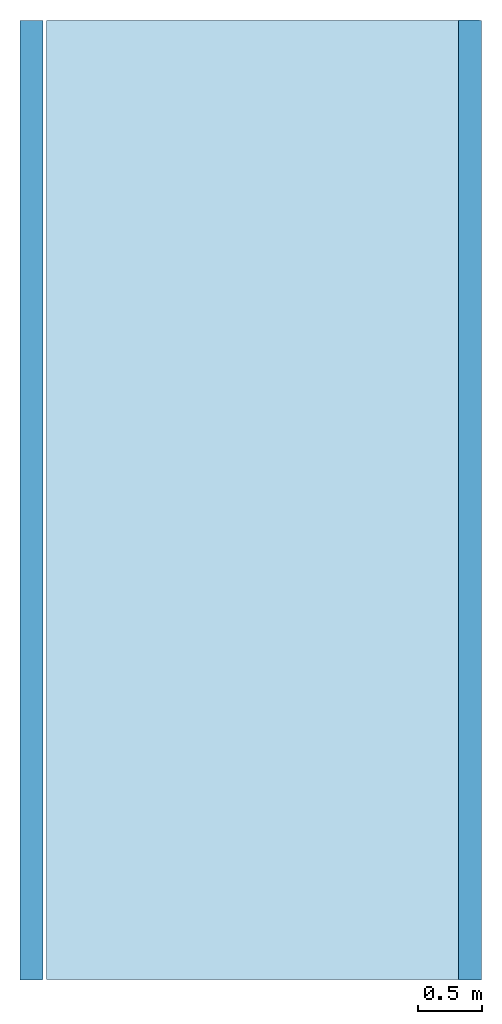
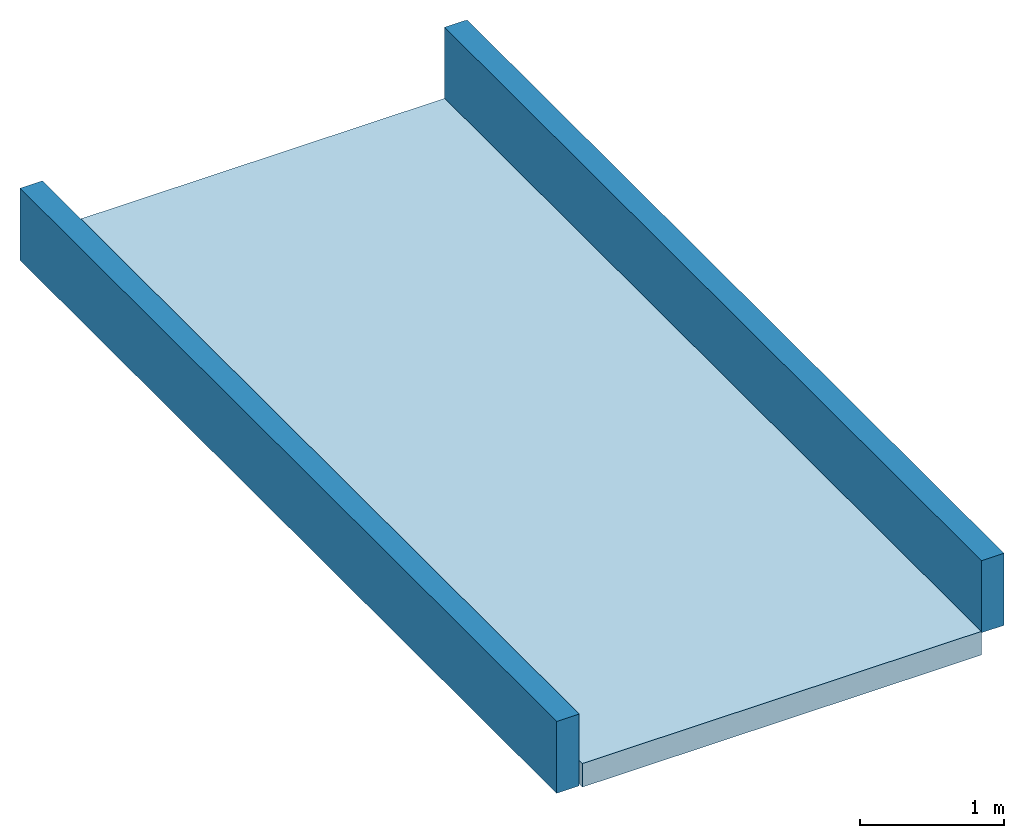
# One storey: 2 beams, 1 slab.
"""IFC2X3 building model written with IfcOpenShell, lengths in metres."""

import ifcopenshell
import ifcopenshell.guid

model = None  # the IFC model being written
_history = None  # IfcOwnerHistory: only IFC2X3 demands one
_inside = {}  # id of a spatial element -> (the spatial element, [elements in it])
_under = {}  # id of a project, library or spatial element -> (it, [spatial elements below it])
_declared = {}  # id of a project -> (the project, [libraries it declares])
_typed = {}  # id of a type object -> (the type object, [elements of that type])
_made_of = {}  # id of a material, layer set ... -> (it, [elements and type objects made of it])


def new_model(schema):
    """Start an empty IFC model of exactly this schema.

    Asked for "IFC4X3", IfcOpenShell would pick the latest addendum, in which some entities
    have other attributes; the version numbers below select the first issue.
    IFC2X3 requires an IfcOwnerHistory on every rooted entity: one is made here for all.
    """
    global model, _history
    if schema == "IFC4X3":
        model = ifcopenshell.file(schema_version=(4, 3, 0, 0))
    else:
        model = ifcopenshell.file(schema=schema)
    _inside.clear()
    _under.clear()
    _declared.clear()
    _typed.clear()
    _made_of.clear()
    _history = None
    if model.schema == "IFC2X3":
        org = make("IfcOrganization", Name="unknown")
        user = make(
            "IfcPersonAndOrganization",
            ThePerson=make("IfcPerson", FamilyName="unknown"),
            TheOrganization=org,
        )
        app = make(
            "IfcApplication",
            ApplicationDeveloper=org,
            Version="unknown",
            ApplicationFullName="unknown",
            ApplicationIdentifier="unknown",
        )
        _history = make(
            "IfcOwnerHistory",
            OwningUser=user,
            OwningApplication=app,
            ChangeAction="ADDED",
            CreationDate=0,
        )
    return model


def make(cls, **values):
    """One entity of the class cls with the attributes given. An attribute that is None is left unset."""
    return model.create_entity(
        cls, **{name: value for name, value in values.items() if value is not None}
    )


def entity(cls, *values):
    """Any entity or typed value of the class cls, its attributes in the order of the schema. None: left unset."""
    e = model.create_entity(cls)
    for i, value in enumerate(values):
        if value is not None:
            e[i] = value
    return e


def rooted(cls, **values):
    """An entity with a GlobalId (a new one), such as an element, a storey or a relation."""
    return make(cls, GlobalId=ifcopenshell.guid.new(), OwnerHistory=_history, **values)


def si_unit(unit_type, name, prefix=None):
    """IfcSIUnit, for example si_unit("LENGTHUNIT", "METRE", prefix="MILLI")."""
    return make("IfcSIUnit", UnitType=unit_type, Prefix=prefix, Name=name)


def converted_unit(unit_type, name, factor, base, dimensions=None, offset=None):
    """IfcConversionBasedUnit, such as the inch: factor (a typed value) times the base unit."""
    return make(
        "IfcConversionBasedUnit"
        if offset is None
        else "IfcConversionBasedUnitWithOffset",
        ConversionOffset=offset,
        Dimensions=None
        if dimensions is None
        else entity("IfcDimensionalExponents", *dimensions),
        UnitType=unit_type,
        Name=name,
        ConversionFactor=make(
            "IfcMeasureWithUnit", ValueComponent=factor, UnitComponent=base
        ),
    )


def derived_unit(unit_type, elements):
    """IfcDerivedUnit: a product of units, each with its exponent."""
    return make(
        "IfcDerivedUnit",
        Elements=[
            make("IfcDerivedUnitElement", Unit=unit, Exponent=power)
            for unit, power in elements
        ],
        UnitType=unit_type,
    )


def assignment(units):
    """IfcUnitAssignment: the units of a project."""
    return None if units is None else make("IfcUnitAssignment", Units=units)


def point(xyz):
    """IfcCartesianPoint."""
    return None if xyz is None else make("IfcCartesianPoint", Coordinates=xyz)


def direction(xyz):
    """IfcDirection."""
    return None if xyz is None else make("IfcDirection", DirectionRatios=xyz)


def frame(location, z_axis=None, x_axis=None):
    """IfcAxis2Placement3D, a coordinate frame: its origin and axes. An axis left out is left unset."""
    return make(
        "IfcAxis2Placement3D",
        Location=point(location),
        Axis=direction(z_axis),
        RefDirection=direction(x_axis),
    )


def frame_2d(location, x_axis=None):
    """IfcAxis2Placement2D, a coordinate frame in the plane: its origin and x axis."""
    return make(
        "IfcAxis2Placement2D", Location=point(location), RefDirection=direction(x_axis)
    )


def origin():
    """The frame at (0, 0, 0) with its axes left unset."""
    return frame((0.0, 0.0, 0.0))


def place(relative_to, where):
    """IfcLocalPlacement: puts the frame where relative to a parent placement (None: the world)."""
    return make(
        "IfcLocalPlacement", PlacementRelTo=relative_to, RelativePlacement=where
    )


def context(
    kind, dimensions, precision=None, world=None, true_north=None, identifier=None
):
    """IfcGeometricRepresentationContext, for example the 3D "Model" context."""
    return make(
        "IfcGeometricRepresentationContext",
        ContextIdentifier=identifier,
        ContextType=kind,
        CoordinateSpaceDimension=dimensions,
        Precision=precision,
        WorldCoordinateSystem=world,
        TrueNorth=true_north,
    )


def subcontext(parent, identifier, kind, view, scale=None):
    """IfcGeometricRepresentationSubContext, for example "Body" below "Model"."""
    return make(
        "IfcGeometricRepresentationSubContext",
        ContextIdentifier=identifier,
        ContextType=kind,
        ParentContext=parent,
        TargetScale=scale,
        TargetView=view,
    )


def project(units=None, contexts=None):
    """IfcProject with its units and contexts."""
    return rooted(
        "IfcProject",
        Name="project",
        RepresentationContexts=contexts,
        UnitsInContext=assignment(units),
    )


def spatial(cls, under=None, at=None, **own):
    """A site, building, storey or space (cls), placed at a placement, below another one or the project."""
    s = rooted(cls, ObjectPlacement=at, **own)
    if under is not None:
        _under.setdefault(under.id(), (under, []))[1].append(s)
    return s


def profile(cls, at=None, kind="AREA", **sizes):
    """A parametric profile (cls). Its sizes go by their IFC names, for example OverallWidth=200.0."""
    return make(cls, ProfileType=kind, Position=at, **sizes)


def rectangle(**sizes):
    """IfcRectangleProfileDef."""
    return profile("IfcRectangleProfileDef", **sizes)


def extrude(swept, where, along, depth):
    """IfcExtrudedAreaSolid: the profile swept, set in the frame where, extruded along a direction by depth."""
    return make(
        "IfcExtrudedAreaSolid",
        SweptArea=swept,
        Position=where,
        ExtrudedDirection=direction(along),
        Depth=depth,
    )


def faces_of(points, faces, orient=None, outer=None):
    """IfcFace entities. A face is a list of loops; a loop is a list of indices into points, from 0.

    orient and outer hold one flag for each loop. By default every Orientation is true, the
    first loop of a face is its IfcFaceOuterBound and the others are IfcFaceBound.
    """
    made = []
    for i, loops in enumerate(faces):
        bounds = []
        for j, loop in enumerate(loops):
            is_outer = j == 0 if outer is None else outer[i][j]
            bounds.append(
                make(
                    "IfcFaceOuterBound" if is_outer else "IfcFaceBound",
                    Bound=make("IfcPolyLoop", Polygon=[points[k] for k in loop]),
                    Orientation=True if orient is None else orient[i][j],
                )
            )
        made.append(make("IfcFace", Bounds=bounds))
    return made


def faceted_brep(points, faces, orient=None, outer=None, voids=None):
    """IfcFacetedBrep: a solid bounded by flat faces; with voids (closed shells), ...WithVoids."""
    shared = [point(p) for p in points]
    hull = make("IfcClosedShell", CfsFaces=faces_of(shared, faces, orient, outer))
    if voids is None:
        return make("IfcFacetedBrep", Outer=hull)
    return make(
        "IfcFacetedBrepWithVoids",
        Outer=hull,
        Voids=[
            make(cls, CfsFaces=faces_of(shared, fs, o, b)) for cls, fs, o, b in voids
        ],
    )


def shape(context_of_items, identifier, shape_type, items):
    """IfcShapeRepresentation: the items that make up one representation, for example the "Body"."""
    return make(
        "IfcShapeRepresentation",
        ContextOfItems=context_of_items,
        RepresentationIdentifier=identifier,
        RepresentationType=shape_type,
        Items=items,
    )


def material(Name=None, Category=None):
    """IfcMaterial."""
    return make("IfcMaterial", Name=Name, Category=Category)


def layer(
    of_material, thickness, ventilated=None, Name=None, Category=None, Priority=None
):
    """IfcMaterialLayer: one layer of a wall or slab, of a material (None: an air gap)."""
    return make(
        "IfcMaterialLayer",
        Material=of_material,
        LayerThickness=thickness,
        IsVentilated=ventilated,
        Name=Name,
        Category=Category,
        Priority=Priority,
    )


def layer_set(layers, Name=None):
    """IfcMaterialLayerSet."""
    return make("IfcMaterialLayerSet", MaterialLayers=layers, LayerSetName=Name)


def layer_usage(for_layer_set, set_direction, sense, offset, extent=None):
    """IfcMaterialLayerSetUsage: how a layer set lies in its element."""
    return make(
        "IfcMaterialLayerSetUsage",
        ForLayerSet=for_layer_set,
        LayerSetDirection=set_direction,
        DirectionSense=sense,
        OffsetFromReferenceLine=offset,
        ReferenceExtent=extent,
    )


def made_of(thing, what):
    """Note that an element or type object is made of a material, layer set ...; save() writes the relation."""
    if what is not None:
        _made_of.setdefault(what.id(), (what, []))[1].append(thing)
    return thing


def type_object(cls, material=None, **own):
    """A type object (cls), such as IfcWallType, which elements share."""
    return made_of(rooted(cls, **own), material)


def element(
    cls,
    number,
    at=None,
    inside=None,
    cuts=None,
    type_object=None,
    material=None,
    context=None,
    identifier="Body",
    shape_type=None,
    held_by="IfcProductDefinitionShape",
    body=None,
    shapes=None,
    **own,
):
    """One element of the class cls, such as IfcWall. Its Tag is "e" and its number.

    at: its placement. inside: the storey or other place that contains it. cuts: it is an
    opening in that element (IfcRelVoidsElement). A single representation is given by context,
    identifier, shape_type and body (its items); several are given by shapes. held_by: the class
    of the entity that holds the representations. save() writes the other relations.
    """
    e = rooted(cls, Tag="e%d" % number, ObjectPlacement=at, **own)
    if body is not None:
        shapes = [shape(context, identifier, shape_type, body)]
    if shapes is not None:
        e.Representation = make(held_by, Representations=shapes)
    if inside is not None:
        _inside.setdefault(inside.id(), (inside, []))[1].append(e)
    if cuts is not None:
        rooted(
            "IfcRelVoidsElement", RelatingBuildingElement=cuts, RelatedOpeningElement=e
        )
    if type_object is not None:
        _typed.setdefault(type_object.id(), (type_object, []))[1].append(e)
    return made_of(e, material)


def aggregate(whole, parts):
    """IfcRelAggregates: a whole, such as a stair, and the parts it consists of."""
    return rooted("IfcRelAggregates", RelatingObject=whole, RelatedObjects=parts)


def save(model, path):
    """Write the relations noted so far, then the file.

    IfcRelAggregates (storeys below a building ...), IfcRelContainedInSpatialStructure (elements
    in a storey), IfcRelDefinesByType, IfcRelAssociatesMaterial and IfcRelDeclares: one each for
    every whole, place, type object, material and project.
    """
    for whole, parts in _under.values():
        aggregate(whole, parts)
    for where, things in _inside.values():
        rooted(
            "IfcRelContainedInSpatialStructure",
            RelatedElements=things,
            RelatingStructure=where,
        )
    for kind, things in _typed.values():
        rooted("IfcRelDefinesByType", RelatedObjects=things, RelatingType=kind)
    for what, things in _made_of.values():
        rooted("IfcRelAssociatesMaterial", RelatedObjects=things, RelatingMaterial=what)
    for by, libraries in _declared.values():
        rooted("IfcRelDeclares", RelatingContext=by, RelatedDefinitions=libraries)
    model.write(path)


model = new_model("IFC2X3")

# Units and contexts
model_context = context("Model", 3, precision=1e-05, world=origin(), true_north=direction((6.12303176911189e-17, 1.0)))
body_context = subcontext(model_context, "Body", "Model", "MODEL_VIEW")
ifc_project = project(units=[si_unit("LENGTHUNIT", "METRE"), si_unit("AREAUNIT", "SQUARE_METRE"), si_unit("VOLUMEUNIT", "CUBIC_METRE"), converted_unit("PLANEANGLEUNIT", "DEGREE", entity("IfcRatioMeasure", 0.0174532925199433), si_unit("PLANEANGLEUNIT", "RADIAN"), dimensions=[0, 0, 0, 0, 0, 0, 0]), si_unit("MASSUNIT", "GRAM", prefix="KILO"), derived_unit("MASSDENSITYUNIT", [(si_unit("MASSUNIT", "GRAM", prefix="KILO"), 1), (si_unit("LENGTHUNIT", "METRE"), -3)]), si_unit("TIMEUNIT", "SECOND"), si_unit("FREQUENCYUNIT", "HERTZ"), si_unit("THERMODYNAMICTEMPERATUREUNIT", "DEGREE_CELSIUS"), derived_unit("THERMALTRANSMITTANCEUNIT", [(si_unit("MASSUNIT", "GRAM", prefix="KILO"), 1), (si_unit("THERMODYNAMICTEMPERATUREUNIT", "KELVIN"), -1), (si_unit("TIMEUNIT", "SECOND"), -3)]), derived_unit("VOLUMETRICFLOWRATEUNIT", [(si_unit("LENGTHUNIT", "METRE"), 3), (si_unit("TIMEUNIT", "SECOND"), -1)]), si_unit("ELECTRICCURRENTUNIT", "AMPERE"), si_unit("ELECTRICVOLTAGEUNIT", "VOLT"), si_unit("POWERUNIT", "WATT"), si_unit("FORCEUNIT", "NEWTON", prefix="KILO"), si_unit("ILLUMINANCEUNIT", "LUX"), si_unit("LUMINOUSFLUXUNIT", "LUMEN"), si_unit("LUMINOUSINTENSITYUNIT", "CANDELA"), derived_unit("USERDEFINED", [(si_unit("MASSUNIT", "GRAM", prefix="KILO"), -1), (si_unit("LENGTHUNIT", "METRE"), -2), (si_unit("TIMEUNIT", "SECOND"), 3), (si_unit("LUMINOUSFLUXUNIT", "LUMEN"), 1)]), derived_unit("LINEARVELOCITYUNIT", [(si_unit("LENGTHUNIT", "METRE"), 1), (si_unit("TIMEUNIT", "SECOND"), -1)]), si_unit("PRESSUREUNIT", "PASCAL"), derived_unit("USERDEFINED", [(si_unit("LENGTHUNIT", "METRE"), -2), (si_unit("MASSUNIT", "GRAM", prefix="KILO"), 1), (si_unit("TIMEUNIT", "SECOND"), -2)])], contexts=[model_context])

# Site, building, storey
site_placement = place(None, origin())
site = spatial("IfcSite", under=ifc_project, at=site_placement, Name="Default", CompositionType="ELEMENT")
building_placement = place(site_placement, origin())
building = spatial("IfcBuilding", under=site, at=building_placement, CompositionType="ELEMENT")
storey_placement = place(building_placement, frame((0.0, 0.0, 6.63)))
storey = spatial("IfcBuildingStorey", under=building, at=storey_placement, Name="Niveau 6", CompositionType="ELEMENT", Elevation=6.63)

# Beams
ifc_material_1 = material(Name="Béton - Béton coulé sur place")
beam_type = type_object("IfcBeamType", Name="Poutre rectangulaire - Béton:180 x 610", PredefinedType="BEAM")
beam_1_placement = place(storey_placement, frame((-4.85874950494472, -4.73358141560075, -0.610000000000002), z_axis=(0.0, 0.0, 1.0), x_axis=(0.0, -1.0, 0.0)))
element("IfcBeam", 1, at=beam_1_placement, inside=storey, type_object=beam_type, material=ifc_material_1, Name="Poutre rectangulaire - Béton:180 x 610", ObjectType="Poutre rectangulaire - Béton:180 x 610", context=body_context, shape_type="Brep", body=[
    faceted_brep([(0.0, 0.0, 0.61), (0.0, 0.1734058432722, 0.595359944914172), (0.0, 0.1734058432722, 0.61), (-0.00270000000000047, 0.0, 0.0), (-0.00270000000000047, 0.0, 0.61), (-7.4427, 0.0, 0.61), (-7.4427, 0.0, 0.0), (-0.00270000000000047, 0.180000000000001, 0.0), (-7.4427, 0.18, 0.0), (-7.4427, 0.18, 0.61), (-0.00269999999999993, 0.180000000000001, 0.61), (-0.00270000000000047, 0.1734058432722, 0.61), (-0.00269999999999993, 0.1734058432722, 0.595359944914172)], [[[0, 1, 2]], [[3, 4, 5, 6]], [[7, 3, 6, 8]], [[8, 9, 10, 7]], [[4, 0, 2, 11, 10, 9, 5]], [[12, 4, 3, 7, 10, 11]], [[4, 12, 1, 0]], [[8, 6, 5, 9]], [[12, 11, 2, 1]]]),
])
beam_2_placement = place(storey_placement, frame((-1.45874950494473, -4.73358141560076, -0.440000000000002), z_axis=(0.0, 0.0, 1.0), x_axis=(0.0, -1.0, 0.0)))
element("IfcBeam", 2, at=beam_2_placement, inside=storey, type_object=beam_type, material=ifc_material_1, Name="Poutre rectangulaire - Béton:180 x 610", ObjectType="Poutre rectangulaire - Béton:180 x 610", context=body_context, shape_type="Brep", body=[
    faceted_brep([(0.0, 0.0, 0.61), (0.0, 0.0, 0.0), (0.0, 0.18, 0.0), (0.0, 0.18, 0.61), (-7.4454, 0.0, 0.61), (-7.4454, 0.164829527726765, 0.61), (-7.4454, 0.00479073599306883, 0.597738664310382), (-7.4454, 0.00479073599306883, 0.440000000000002), (-7.4454, 0.0, 0.440000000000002), (-7.4427, 0.0, 0.440000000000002), (-7.4427, 0.0, 0.0100000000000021), (-7.4427, 0.0, 0.0), (-7.4427, 0.18, 0.0), (-7.4427, 0.18, 0.61), (-7.4427, 0.16482952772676, 0.61), (-7.4427, 0.00479073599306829, 0.440000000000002), (-7.4427, 0.00479073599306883, 0.597738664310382)], [[[0, 1, 2, 3]], [[4, 5, 6, 7, 8]], [[1, 0, 4, 8, 9, 10, 11]], [[2, 1, 11, 12]], [[3, 2, 12, 13]], [[0, 3, 13, 14, 5, 4]], [[11, 10, 9, 15, 16, 14, 13, 12]], [[6, 16, 15, 7]], [[15, 9, 8, 7]], [[14, 16, 6, 5]]]),
])

# Slab
ifc_material_2 = material(Name="Maçonnerie - Béton")
ifc_layer = layer(ifc_material_2, 0.2)
ifc_layer_set = layer_set([ifc_layer], Name="Sol:Dalle en béton - 200")
ifc_layer_usage = layer_usage(ifc_layer_set, "AXIS3", "POSITIVE", 0.0)
slab_placement = place(storey_placement, origin())
element("IfcSlab", 3, at=slab_placement, inside=storey, material=ifc_layer_usage, Name="Sol:Dalle en béton - 200", ObjectType="Sol:Dalle en béton - 200", PredefinedType="FLOOR", context=body_context, shape_type="SweptSolid", body=[
    extrude(rectangle(XDim=7.44, YDim=3.19391924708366, at=frame_2d((0.0, 2.22044604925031e-16), x_axis=(1.0, 0.0))), frame((-3.05570912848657, -1.01088141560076, -0.43), z_axis=(0.0, 0.0, -1.0), x_axis=(0.0, 1.0, 0.0)), (0.0, 0.0, 1.0), 0.2),
])

save(model, "model.ifc")
